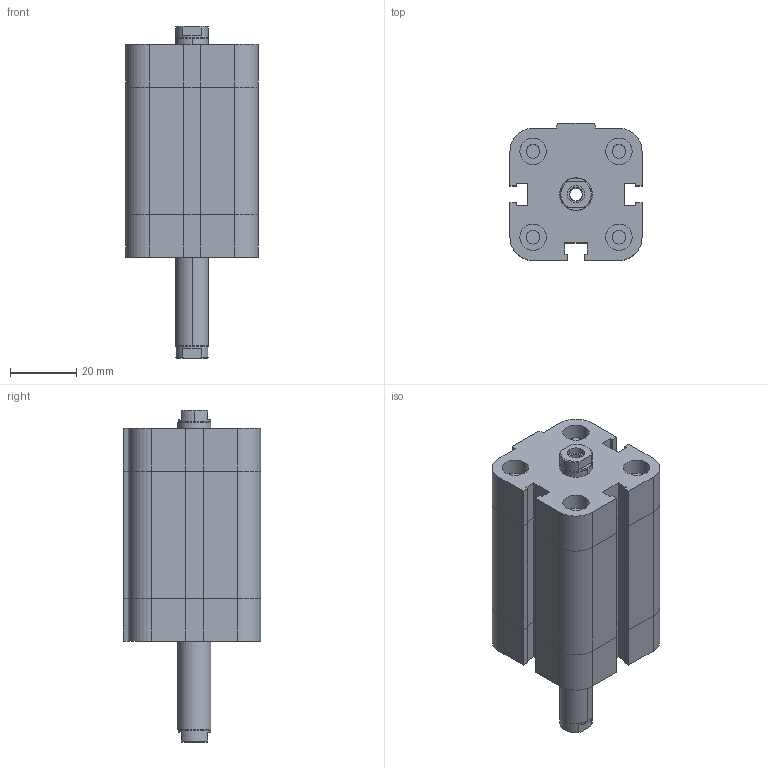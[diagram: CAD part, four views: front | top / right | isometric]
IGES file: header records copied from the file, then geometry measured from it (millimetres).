
Global section: file name: No Iges File Name specified; native system: Autodesk Inventor 2009; preprocessor: AutoDesk Inventor Iges Exporter R2009; author: maffial1; date: 20090420.201157; units: millimetre
Bounding box: 40 x 41.5 x 100.5 mm (x, y, z)
Volume: 93063.6 mm3; surface area: 24377.2 mm2
Topology: 2 solids, 2 shells, 204 faces, 456 edges, 278 vertices
Faces by surface type: plane 114, bspline 44, revolution 20, cylinder 18, cone 8
